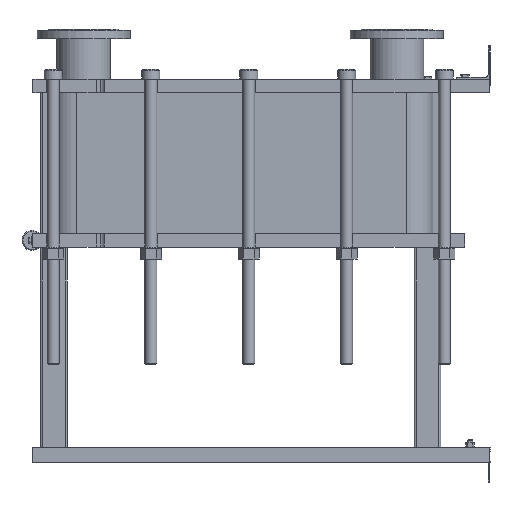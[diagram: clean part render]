
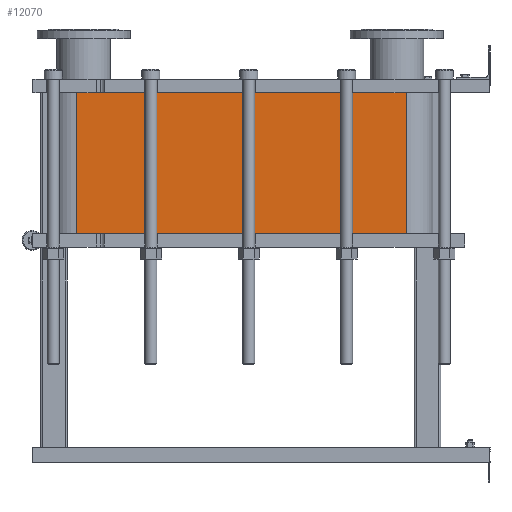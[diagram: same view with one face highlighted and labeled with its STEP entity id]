
A CAD part, left-side view. The second image highlights one B-rep face of the part: STEP entity #12070.
In plain terms, the highlighted planar face has unit normal (-1, 0, 0).
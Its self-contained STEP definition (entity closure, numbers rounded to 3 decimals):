
#1064=LINE('',#21140,#2164);
#1065=LINE('',#21144,#2165);
#1066=LINE('',#21146,#2166);
#1067=LINE('',#21147,#2167);
#2164=VECTOR('',#15790,10.);
#2165=VECTOR('',#15795,10.);
#2166=VECTOR('',#15796,10.);
#2167=VECTOR('',#15797,10.);
#3304=FACE_OUTER_BOUND('',#4091,.T.);
#4091=EDGE_LOOP('',(#9793,#9794,#9795,#9796));
#5677=VERTEX_POINT('',#21137);
#5678=VERTEX_POINT('',#21139);
#5679=VERTEX_POINT('',#21143);
#5680=VERTEX_POINT('',#21145);
#7118=EDGE_CURVE('',#5678,#5677,#1064,.T.);
#7120=EDGE_CURVE('',#5677,#5679,#1065,.T.);
#7121=EDGE_CURVE('',#5680,#5679,#1066,.T.);
#7122=EDGE_CURVE('',#5680,#5678,#1067,.T.);
#9793=ORIENTED_EDGE('',*,*,#7120,.T.);
#9794=ORIENTED_EDGE('',*,*,#7121,.F.);
#9795=ORIENTED_EDGE('',*,*,#7122,.T.);
#9796=ORIENTED_EDGE('',*,*,#7118,.T.);
#11441=PLANE('',#13191);
#12070=ADVANCED_FACE('',(#3304),#11441,.T.);
#13191=AXIS2_PLACEMENT_3D('',#21142,#15793,#15794);
#15790=DIRECTION('',(0.,0.,-1.));
#15793=DIRECTION('center_axis',(-1.,0.,0.));
#15794=DIRECTION('ref_axis',(0.,1.,0.));
#15795=DIRECTION('',(0.,-1.,0.));
#15796=DIRECTION('',(0.,0.,-1.));
#15797=DIRECTION('',(0.,1.,0.));
#21137=CARTESIAN_POINT('',(-248.152,1243.818,-424.35));
#21139=CARTESIAN_POINT('',(-248.152,1243.818,0.));
#21140=CARTESIAN_POINT('',(-248.152,1243.818,0.));
#21142=CARTESIAN_POINT('Origin',(-248.152,251.818,0.));
#21143=CARTESIAN_POINT('',(-248.152,251.818,-424.35));
#21144=CARTESIAN_POINT('',(-248.152,499.818,-424.35));
#21145=CARTESIAN_POINT('',(-248.152,251.818,0.));
#21146=CARTESIAN_POINT('',(-248.152,251.818,0.));
#21147=CARTESIAN_POINT('',(-248.152,251.818,0.));
